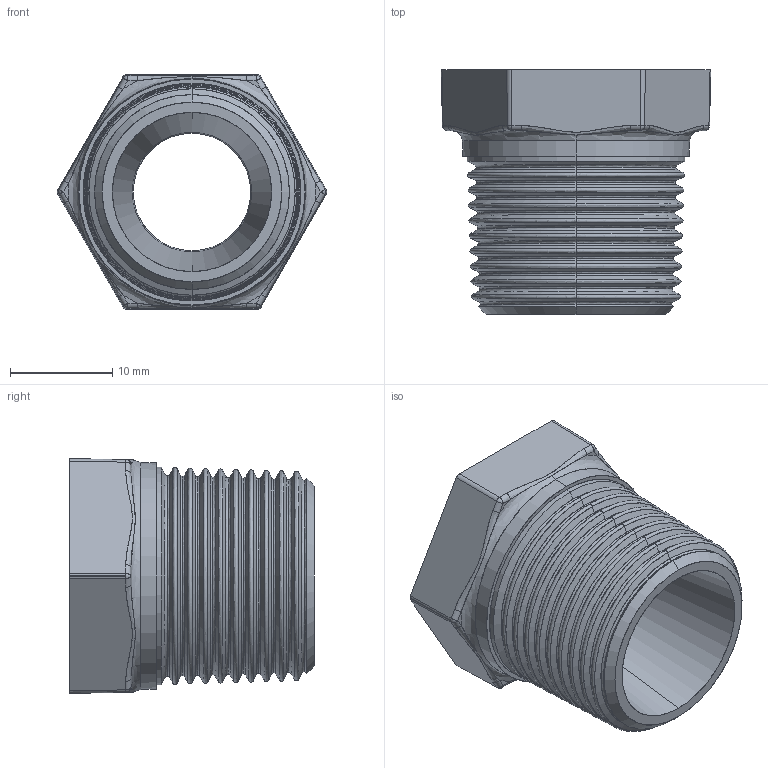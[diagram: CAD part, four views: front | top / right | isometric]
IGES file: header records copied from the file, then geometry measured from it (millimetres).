
Start section: SolidWorks IGES file using analytic representation for surfaces
Global section: file name: C:\Users\Joel Rosa\Desktop\Tubulação\12-01-OK\12-01-025.IGS; native system: SolidWorks 2011; preprocessor: SolidWorks 2011; author: Joel Rosa; date: 121203.194521; units: millimetre
Bounding box: 26.4 x 24 x 23 mm (x, y, z)
Surface area: 3973.9 mm2 (no closed solid volume)
Topology: 0 solids, 0 shells, 343 faces, 2440 edges, 2440 vertices
Faces by surface type: bspline 244, revolution 99
